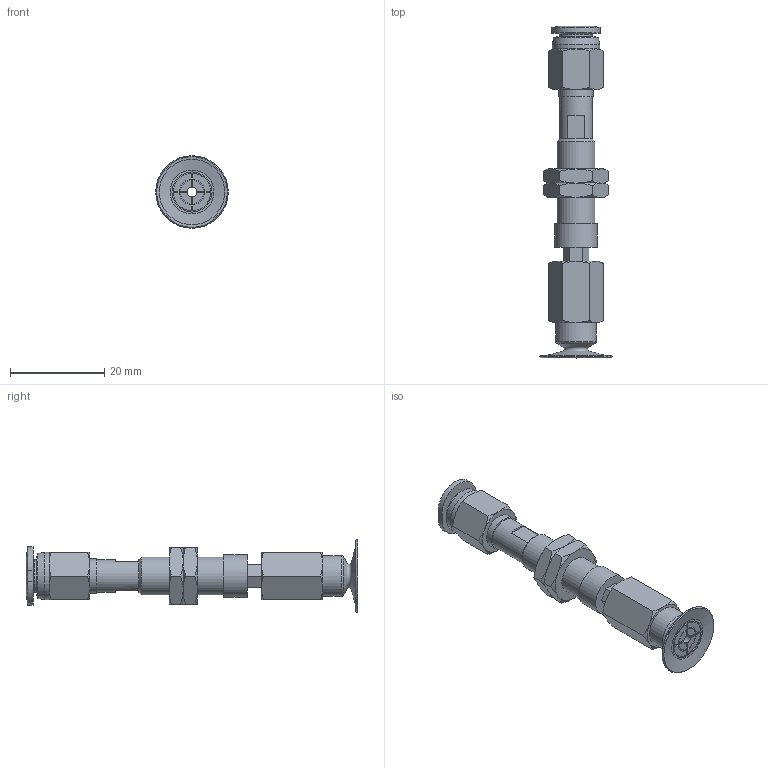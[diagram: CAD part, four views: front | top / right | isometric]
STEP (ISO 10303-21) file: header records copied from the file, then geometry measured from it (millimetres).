
FILE_DESCRIPTION(('STEP AP203'),'1');
FILE_NAME('-O.stp','2025-08-21T08:01:14',(' '),(' '),'Spatial InterOp 3D',' ',' ');
FILE_SCHEMA(('CONFIG_CONTROL_DESIGN'));
Length unit declared in the file: millimetre
Products named in the file (7): BNABPATH-15B-3-※-O; NAPATH-10A-3--F; Nut-10A-S; PC-C_06-M5; BPAG-15B-※; ADAPTER; NAPATH-10A-3--M
Assembly tree (7 placements, depth 2):
  BNABPATH-15B-3-※-O
    NAPATH-10A-3--F
    Nut-10A-S  x2
    PC-C_06-M5
    BPAG-15B-※
    ADAPTER
    NAPATH-10A-3--M
Bounding box: 15.4 x 70.48 x 15.4 mm (x, y, z)
Volume: 4214.4 mm3; surface area: 5298.6 mm2
Topology: 7 solids, 7 shells, 216 faces, 475 edges, 289 vertices
Faces by surface type: plane 90, cone 71, cylinder 36, torus 12, bspline 4, revolution 3
Full cylindrical faces by diameter (mm): 2 x3, 4 x4, 4.134 x1, 5 x1, 6 x2, 7 x2, 7.188 x2, 7.4 x1, 8 x1, 8.2 x1, 8.5 x1, 8.7 x1, 9 x1, 10 x1
Entity records: 5764 total; most frequent: CARTESIAN_POINT 1543, DIRECTION 795, ORIENTED_EDGE 732, EDGE_CURVE 366, AXIS2_PLACEMENT_3D 330, EDGE_LOOP 266, VERTEX_POINT 248, FACE_OUTER_BOUND 226
